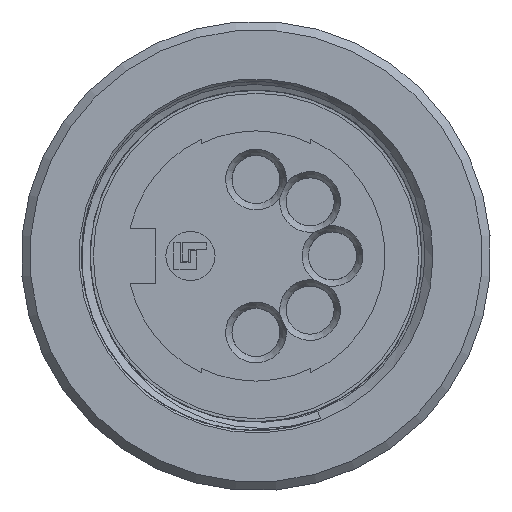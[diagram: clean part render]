
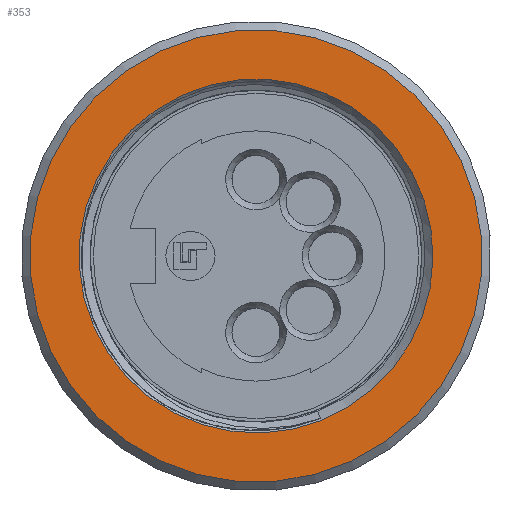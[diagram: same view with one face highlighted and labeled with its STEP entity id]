
A CAD part, left-side view. The second image highlights one B-rep face of the part: STEP entity #353.
In plain terms, the highlighted planar face has unit normal (-1, 0, 0).
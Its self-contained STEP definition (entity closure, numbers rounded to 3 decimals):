
#152=PLANE('',#2133);
#233=FACE_BOUND('',#628,.T.);
#234=FACE_BOUND('',#629,.T.);
#353=ADVANCED_FACE('',(#233,#234),#152,.T.);
#628=EDGE_LOOP('',(#1155));
#629=EDGE_LOOP('',(#1156));
#753=CIRCLE('',#2130,8.1);
#754=CIRCLE('',#2132,10.35);
#1155=ORIENTED_EDGE('',*,*,#1666,.T.);
#1156=ORIENTED_EDGE('',*,*,#1667,.F.);
#1426=VERTEX_POINT('',#5434);
#1427=VERTEX_POINT('',#5437);
#1666=EDGE_CURVE('',#1426,#1426,#753,.T.);
#1667=EDGE_CURVE('',#1427,#1427,#754,.T.);
#2130=AXIS2_PLACEMENT_3D('',#5433,#2600,#2601);
#2132=AXIS2_PLACEMENT_3D('',#5436,#2604,#2605);
#2133=AXIS2_PLACEMENT_3D('',#5438,#2606,#2607);
#2600=DIRECTION('',(1.,0.,0.));
#2601=DIRECTION('',(0.,0.422,0.907));
#2604=DIRECTION('',(1.,0.,0.));
#2605=DIRECTION('',(0.,-0.422,-0.907));
#2606=DIRECTION('',(-1.,0.,0.));
#2607=DIRECTION('',(0.,-0.422,-0.907));
#5433=CARTESIAN_POINT('',(0.1,0.,0.));
#5434=CARTESIAN_POINT('',(0.1,3.418,7.344));
#5436=CARTESIAN_POINT('',(0.1,0.,0.));
#5437=CARTESIAN_POINT('',(0.1,-4.367,-9.383));
#5438=CARTESIAN_POINT('',(0.1,0.,0.));
